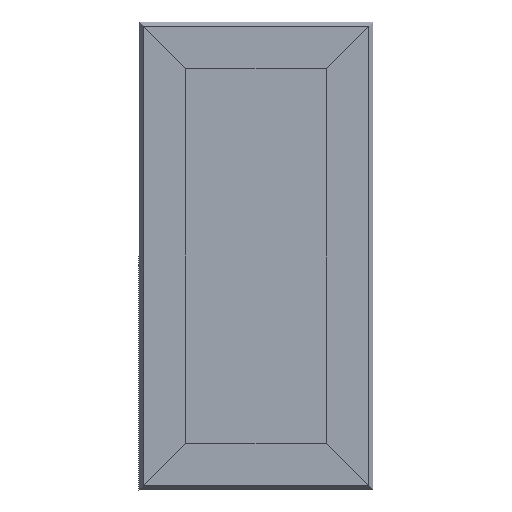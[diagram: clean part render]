
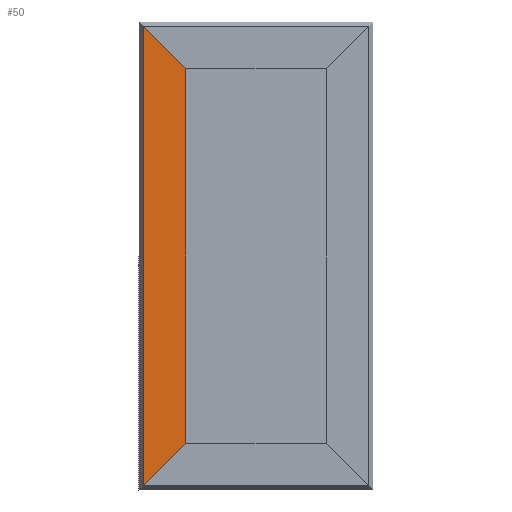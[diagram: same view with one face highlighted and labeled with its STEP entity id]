
A CAD part, front view. The second image highlights one B-rep face of the part: STEP entity #50.
In plain terms, the highlighted planar face has unit normal (0, -1, 0).
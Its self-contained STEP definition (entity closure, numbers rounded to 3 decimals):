
#43 = ORIENTED_EDGE ( 'NONE', *, *, #1998, .F. ) ;
#50 = ADVANCED_FACE ( 'NONE', ( #5040 ), #4316, .F. ) ;
#61 = AXIS2_PLACEMENT_3D ( 'NONE', #2748, #394, #1975 ) ;
#87 = CARTESIAN_POINT ( 'NONE',  ( -385.296, 0., 800. ) ) ;
#148 = CARTESIAN_POINT ( 'NONE',  ( 480., 0., 80. ) ) ;
#394 = DIRECTION ( 'NONE',  ( 0., 1., 0. ) ) ;
#473 = LINE ( 'NONE', #87, #1988 ) ;
#592 = VERTEX_POINT ( 'NONE', #3662 ) ;
#659 = EDGE_CURVE ( 'NONE', #3858, #4505, #4102, .T. ) ;
#909 = EDGE_CURVE ( 'NONE', #4505, #592, #4717, .T. ) ;
#1216 = VECTOR ( 'NONE', #2203, 1000. ) ;
#1221 = VECTOR ( 'NONE', #4328, 1000. ) ;
#1488 = ORIENTED_EDGE ( 'NONE', *, *, #909, .F. ) ;
#1975 = DIRECTION ( 'NONE',  ( -1., 0., 0. ) ) ;
#1988 = VECTOR ( 'NONE', #2079, 1000. ) ;
#1998 = EDGE_CURVE ( 'NONE', #592, #3816, #3228, .T. ) ;
#2079 = DIRECTION ( 'NONE',  ( 0., 0., -1. ) ) ;
#2088 = ORIENTED_EDGE ( 'NONE', *, *, #4240, .T. ) ;
#2203 = DIRECTION ( 'NONE',  ( 0.707, 0., -0.707 ) ) ;
#2212 = CARTESIAN_POINT ( 'NONE',  ( -385.296, 0., 785.296 ) ) ;
#2448 = DIRECTION ( 'NONE',  ( -0.707, 0., -0.707 ) ) ;
#2721 = ORIENTED_EDGE ( 'NONE', *, *, #659, .F. ) ;
#2748 = CARTESIAN_POINT ( 'NONE',  ( -240., 0., 800. ) ) ;
#2859 = CARTESIAN_POINT ( 'NONE',  ( -240., 0., 800. ) ) ;
#2969 = VECTOR ( 'NONE', #2448, 1000. ) ;
#3228 = LINE ( 'NONE', #148, #2969 ) ;
#3573 = EDGE_LOOP ( 'NONE', ( #43, #1488, #2721, #2088 ) ) ;
#3649 = CARTESIAN_POINT ( 'NONE',  ( -385.296, 0., -785.296 ) ) ;
#3662 = CARTESIAN_POINT ( 'NONE',  ( -240., 0., -640. ) ) ;
#3816 = VERTEX_POINT ( 'NONE', #3649 ) ;
#3858 = VERTEX_POINT ( 'NONE', #2212 ) ;
#4102 = LINE ( 'NONE', #4958, #1216 ) ;
#4240 = EDGE_CURVE ( 'NONE', #3858, #3816, #473, .T. ) ;
#4316 = PLANE ( 'NONE',  #61 ) ;
#4328 = DIRECTION ( 'NONE',  ( 0., 0., -1. ) ) ;
#4505 = VERTEX_POINT ( 'NONE', #5054 ) ;
#4717 = LINE ( 'NONE', #2859, #1221 ) ;
#4958 = CARTESIAN_POINT ( 'NONE',  ( -320., 0., 720. ) ) ;
#5040 = FACE_OUTER_BOUND ( 'NONE', #3573, .T. ) ;
#5054 = CARTESIAN_POINT ( 'NONE',  ( -240., 0., 640. ) ) ;
